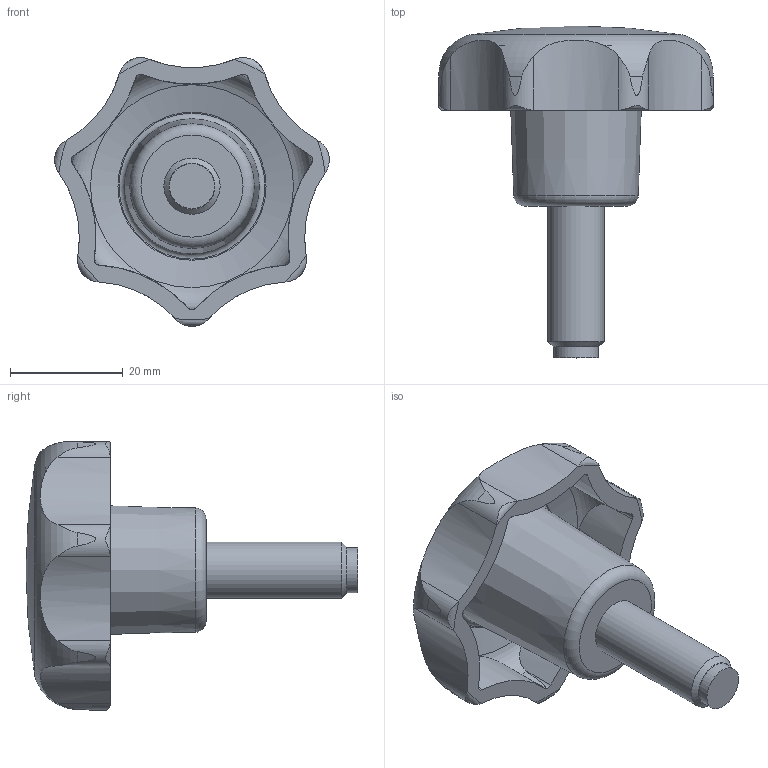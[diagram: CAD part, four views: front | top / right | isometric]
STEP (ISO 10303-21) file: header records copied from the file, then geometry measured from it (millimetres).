
FILE_DESCRIPTION( ( 'STEP AP203' ), '1' );
FILE_NAME( 'C:/Temp/Ganter_Step_05_03_2020/data/2_2/gn6336_10/Star knob GN 6336.10-50-M10-25-MS.stp', '2020-03-05T12:04:15', ( 'License CC BY-ND 4.0' ), ( 'CADENAS' ), ' ', 'PARTsolutions', ' ' );
FILE_SCHEMA( ( 'CONFIG_CONTROL_DESIGN' ) );
Length unit declared in the file: millimetre
Products named in the file (1): _Star knob GN 6336.10-50-M10-25-MS
Bounding box: 48.81 x 59 x 47.78 mm (x, y, z)
Volume: 22633.1 mm3; surface area: 9095.7 mm2
Topology: 1 solids, 1 shells, 64 faces, 189 edges, 129 vertices
Faces by surface type: cylinder 30, cone 17, torus 12, plane 4, sphere 1
Full cylindrical faces by diameter (mm): 8 x1, 10 x1
Entity records: 3108 total; most frequent: CARTESIAN_POINT 1546, ORIENTED_EDGE 346, DIRECTION 266, EDGE_CURVE 173, VERTEX_POINT 125, AXIS2_PLACEMENT_3D 119, B_SPLINE_CURVE_WITH_KNOTS 91, EDGE_LOOP 77
